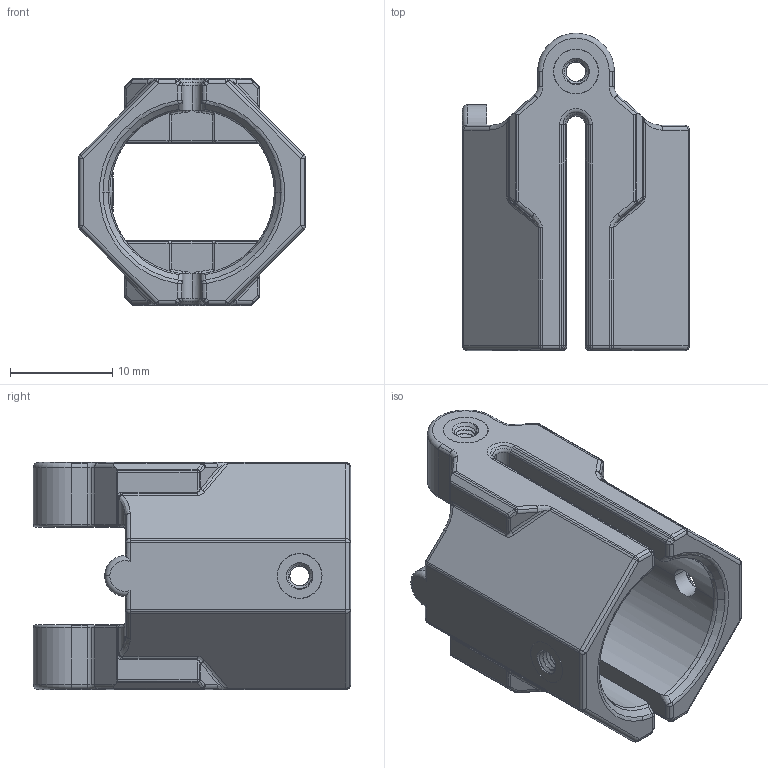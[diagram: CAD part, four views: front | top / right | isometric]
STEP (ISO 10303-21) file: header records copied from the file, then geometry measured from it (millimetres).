
FILE_DESCRIPTION (( 'STEP AP214' ), '1' );
FILE_NAME ('arm-pivot.STEP', '2025-11-13T21:35:15', ( '' ), ( '' ), 'SwSTEP 2.0', 'SolidWorks 2021', '' );
FILE_SCHEMA (( 'AUTOMOTIVE_DESIGN' ));
Length unit declared in the file: millimetre
Products named in the file (1): arm-pivot
Bounding box: 22.24 x 31.08 x 22.24 mm (x, y, z)
Volume: 4503.7 mm3; surface area: 4291 mm2
Topology: 4 solids, 4 shells, 1329 faces, 3688 edges, 2357 vertices
Faces by surface type: cylinder 647, bspline 474, plane 81, sphere 44, torus 42, cone 41
Entity records: 66795 total; most frequent: CARTESIAN_POINT 22976, ORIENTED_EDGE 7328, DIRECTION 5003, EDGE_CURVE 3664, VERTEX_POINT 2357, AXIS2_PLACEMENT_3D 1872, EDGE_LOOP 1359, UNCERTAINTY_MEASURE_WITH_UNIT 1335
